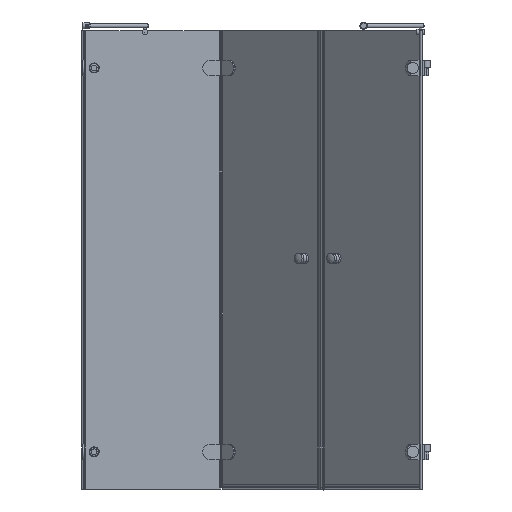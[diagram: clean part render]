
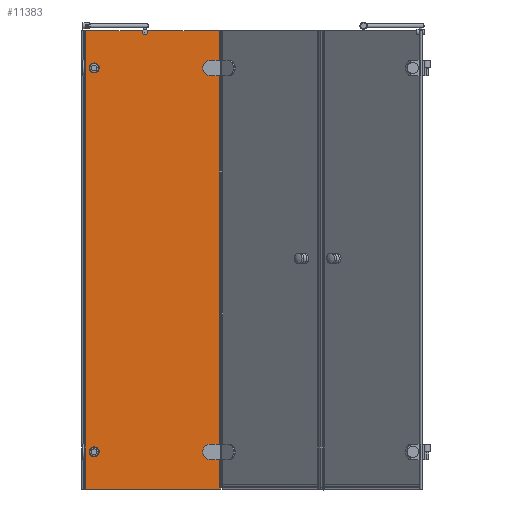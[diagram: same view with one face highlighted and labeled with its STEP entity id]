
A CAD part, left-side view. The second image highlights one B-rep face of the part: STEP entity #11383.
In plain terms, the highlighted planar face has unit normal (-1, 0, 0).
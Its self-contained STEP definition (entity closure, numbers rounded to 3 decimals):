
#732=LINE($,#17956,#1774);
#736=LINE($,#17964,#1778);
#740=LINE($,#17975,#1782);
#782=LINE($,#18084,#1824);
#786=LINE($,#18092,#1828);
#790=LINE($,#18103,#1832);
#915=LINE($,#18841,#1957);
#922=LINE($,#18869,#1964);
#925=LINE($,#18879,#1967);
#946=LINE($,#18938,#1988);
#949=LINE($,#18944,#1991);
#968=LINE($,#18999,#2010);
#969=LINE($,#19001,#2011);
#971=LINE($,#19004,#2013);
#975=LINE($,#19013,#2017);
#996=LINE($,#19070,#2038);
#1774=VECTOR($,#14465,52.);
#1778=VECTOR($,#14471,23.);
#1782=VECTOR($,#14483,23.);
#1824=VECTOR($,#14589,52.);
#1828=VECTOR($,#14595,23.);
#1832=VECTOR($,#14607,23.);
#1957=VECTOR($,#15016,251.365);
#1964=VECTOR($,#15037,2.443);
#1967=VECTOR($,#15046,472.699);
#1988=VECTOR($,#15101,1595.);
#1991=VECTOR($,#15106,1595.);
#2010=VECTOR($,#15171,1595.);
#2011=VECTOR($,#15174,2.257);
#2013=VECTOR($,#15178,5.);
#2017=VECTOR($,#15186,1600.);
#2038=VECTOR($,#15255,198.774);
#2504=FACE_BOUND($,#3737,.T.);
#2505=FACE_BOUND($,#3738,.T.);
#2506=FACE_BOUND($,#3739,.T.);
#2507=FACE_BOUND($,#3740,.T.);
#2508=FACE_BOUND($,#3741,.T.);
#3737=EDGE_LOOP($,(#9459,#9460,#9461,#9462));
#3738=EDGE_LOOP($,(#9463,#9464,#9465,#9466));
#3739=EDGE_LOOP($,(#9467));
#3740=EDGE_LOOP($,(#9468));
#3741=EDGE_LOOP($,(#9469,#9470,#9471,#9472,#9473,#9474,#9475,#9476,#9477,
#9478,#9479));
#4071=CIRCLE($,#12116,26.);
#4083=CIRCLE($,#12153,26.);
#4111=CIRCLE($,#12216,15.);
#4136=CIRCLE($,#12270,15.);
#4139=CIRCLE($,#12274,10.);
#4901=VERTEX_POINT($,#17954);
#4902=VERTEX_POINT($,#17955);
#4905=VERTEX_POINT($,#17963);
#4907=VERTEX_POINT($,#17969);
#4942=VERTEX_POINT($,#18082);
#4943=VERTEX_POINT($,#18083);
#4946=VERTEX_POINT($,#18091);
#4948=VERTEX_POINT($,#18097);
#5008=VERTEX_POINT($,#18335);
#5063=VERTEX_POINT($,#18552);
#5070=VERTEX_POINT($,#18603);
#5071=VERTEX_POINT($,#18604);
#5104=VERTEX_POINT($,#18840);
#5117=VERTEX_POINT($,#18867);
#5118=VERTEX_POINT($,#18868);
#5121=VERTEX_POINT($,#18877);
#5122=VERTEX_POINT($,#18878);
#5143=VERTEX_POINT($,#18937);
#5145=VERTEX_POINT($,#18943);
#5158=VERTEX_POINT($,#18997);
#5161=VERTEX_POINT($,#19012);
#6241=EDGE_CURVE($,#4901,#4902,#732,.T.);
#6245=EDGE_CURVE($,#4902,#4905,#736,.T.);
#6248=EDGE_CURVE($,#4905,#4907,#4071,.T.);
#6251=EDGE_CURVE($,#4907,#4901,#740,.T.);
#6303=EDGE_CURVE($,#4942,#4943,#782,.T.);
#6307=EDGE_CURVE($,#4943,#4946,#786,.T.);
#6310=EDGE_CURVE($,#4946,#4948,#4083,.T.);
#6313=EDGE_CURVE($,#4948,#4942,#790,.T.);
#6395=EDGE_CURVE($,#5008,#5008,#4111,.T.);
#6470=EDGE_CURVE($,#5063,#5063,#4136,.T.);
#6477=EDGE_CURVE($,#5070,#5071,#4139,.T.);
#6518=EDGE_CURVE($,#5104,#5070,#915,.T.);
#6532=EDGE_CURVE($,#5117,#5118,#922,.T.);
#6537=EDGE_CURVE($,#5121,#5122,#925,.T.);
#6568=EDGE_CURVE($,#5143,#5104,#946,.T.);
#6571=EDGE_CURVE($,#5118,#5145,#949,.T.);
#6599=EDGE_CURVE($,#5117,#5158,#968,.T.);
#6600=EDGE_CURVE($,#5145,#5143,#969,.T.);
#6602=EDGE_CURVE($,#5158,#5121,#971,.T.);
#6606=EDGE_CURVE($,#5161,#5122,#975,.T.);
#6636=EDGE_CURVE($,#5071,#5161,#996,.T.);
#9459=ORIENTED_EDGE($,*,*,#6241,.T.);
#9460=ORIENTED_EDGE($,*,*,#6245,.T.);
#9461=ORIENTED_EDGE($,*,*,#6248,.T.);
#9462=ORIENTED_EDGE($,*,*,#6251,.T.);
#9463=ORIENTED_EDGE($,*,*,#6303,.T.);
#9464=ORIENTED_EDGE($,*,*,#6307,.T.);
#9465=ORIENTED_EDGE($,*,*,#6310,.T.);
#9466=ORIENTED_EDGE($,*,*,#6313,.T.);
#9467=ORIENTED_EDGE($,*,*,#6395,.T.);
#9468=ORIENTED_EDGE($,*,*,#6470,.T.);
#9469=ORIENTED_EDGE($,*,*,#6477,.T.);
#9470=ORIENTED_EDGE($,*,*,#6636,.T.);
#9471=ORIENTED_EDGE($,*,*,#6606,.T.);
#9472=ORIENTED_EDGE($,*,*,#6537,.F.);
#9473=ORIENTED_EDGE($,*,*,#6602,.F.);
#9474=ORIENTED_EDGE($,*,*,#6599,.F.);
#9475=ORIENTED_EDGE($,*,*,#6532,.T.);
#9476=ORIENTED_EDGE($,*,*,#6571,.T.);
#9477=ORIENTED_EDGE($,*,*,#6600,.T.);
#9478=ORIENTED_EDGE($,*,*,#6568,.T.);
#9479=ORIENTED_EDGE($,*,*,#6518,.T.);
#10194=PLANE($,#12376);
#11383=ADVANCED_FACE($,(#2504,#2505,#2506,#2507,#2508),#10194,.T.);
#12116=AXIS2_PLACEMENT_3D($,#17970,#14476,#14477);
#12153=AXIS2_PLACEMENT_3D($,#18098,#14600,#14601);
#12216=AXIS2_PLACEMENT_3D($,#18336,#14781,#14782);
#12270=AXIS2_PLACEMENT_3D($,#18553,#14937,#14938);
#12274=AXIS2_PLACEMENT_3D($,#18605,#14945,#14946);
#12376=AXIS2_PLACEMENT_3D($,#19069,#15253,#15254);
#14465=DIRECTION($,(0.,0.,-1.));
#14471=DIRECTION($,(0.,1.,0.));
#14476=DIRECTION('center_axis',(1.,0.,0.));
#14477=DIRECTION('ref_axis',(0.,0.,
1.));
#14483=DIRECTION($,(0.,-1.,0.));
#14589=DIRECTION($,(0.,0.,-1.));
#14595=DIRECTION($,(0.,1.,0.));
#14600=DIRECTION('center_axis',(1.,0.,0.));
#14601=DIRECTION('ref_axis',(0.,0.,
1.));
#14607=DIRECTION($,(0.,-1.,0.));
#14781=DIRECTION('center_axis',(1.,0.,0.));
#14782=DIRECTION('ref_axis',(0.,-1.,0.));
#14937=DIRECTION('center_axis',(1.,0.,0.));
#14938=DIRECTION('ref_axis',(0.,-1.,0.));
#14945=DIRECTION('center_axis',(1.,0.,0.));
#14946=DIRECTION('ref_axis',(0.,0.597,0.802));
#15016=DIRECTION($,(0.,1.,0.));
#15037=DIRECTION($,(0.,1.,0.));
#15046=DIRECTION($,(0.,1.,0.));
#15101=DIRECTION($,(0.,0.,1.));
#15106=DIRECTION($,(0.,0.,-1.));
#15171=DIRECTION($,(0.,0.,-1.));
#15174=DIRECTION($,(0.,1.,0.));
#15178=DIRECTION($,(0.,0.,-1.));
#15186=DIRECTION($,(0.,0.,-1.));
#15253=DIRECTION('center_axis',(-1.,0.,0.));
#15254=DIRECTION('ref_axis',(0.,1.,0.));
#15255=DIRECTION($,(0.,1.,0.));
#17954=CARTESIAN_POINT('',(1461.411,474.557,1481.944));
#17955=CARTESIAN_POINT('',(1461.411,474.557,1429.944));
#17956=CARTESIAN_POINT($,(1461.411,474.557,1507.944));
#17963=CARTESIAN_POINT('',(1461.411,497.557,1429.944));
#17964=CARTESIAN_POINT($,(1461.411,479.557,1429.944));
#17969=CARTESIAN_POINT('',(1461.411,497.557,1481.944));
#17970=CARTESIAN_POINT('Origin',(1461.411,497.557,1455.944));
#17975=CARTESIAN_POINT($,(1461.411,468.057,1481.944));
#18082=CARTESIAN_POINT('',(1461.411,474.557,141.944));
#18083=CARTESIAN_POINT('',(1461.411,474.557,89.944));
#18084=CARTESIAN_POINT($,(1461.411,474.557,837.944));
#18091=CARTESIAN_POINT('',(1461.411,497.557,89.944));
#18092=CARTESIAN_POINT($,(1461.411,479.557,89.944));
#18097=CARTESIAN_POINT('',(1461.411,497.557,141.944));
#18098=CARTESIAN_POINT('Origin',(1461.411,497.557,115.944));
#18103=CARTESIAN_POINT($,(1461.411,468.057,141.944));
#18335=CARTESIAN_POINT('',(1461.411,918.956,1455.944));
#18336=CARTESIAN_POINT('Origin',(1461.411,903.956,1455.944));
#18552=CARTESIAN_POINT('',(1461.411,918.956,115.944));
#18553=CARTESIAN_POINT('Origin',(1461.411,903.956,115.944));
#18603=CARTESIAN_POINT('',(1461.411,717.622,1585.944));
#18604=CARTESIAN_POINT('',(1461.411,735.482,1585.944));
#18605=CARTESIAN_POINT('Origin',(1461.411,726.552,1581.444));
#18840=CARTESIAN_POINT('',(1461.411,466.257,1585.944));
#18841=CARTESIAN_POINT($,(1461.411,461.557,1585.944));
#18867=CARTESIAN_POINT('',(1461.411,461.557,1585.944));
#18868=CARTESIAN_POINT('',(1461.411,464.,1585.944));
#18869=CARTESIAN_POINT($,(1461.411,461.557,1585.944));
#18877=CARTESIAN_POINT('',(1461.411,461.557,-14.056));
#18878=CARTESIAN_POINT('',(1461.411,934.256,-14.056));
#18879=CARTESIAN_POINT($,(1461.411,461.557,-14.056));
#18937=CARTESIAN_POINT('',(1461.411,466.257,-9.056));
#18938=CARTESIAN_POINT($,(1461.411,466.257,788.444));
#18943=CARTESIAN_POINT('',(1461.411,464.,-9.056));
#18944=CARTESIAN_POINT($,(1461.411,464.,788.444));
#18997=CARTESIAN_POINT('',(1461.411,461.557,-9.056));
#18999=CARTESIAN_POINT($,(1461.411,461.557,1585.944));
#19001=CARTESIAN_POINT($,(1461.411,462.16,-9.056));
#19004=CARTESIAN_POINT($,(1461.411,461.557,1585.944));
#19012=CARTESIAN_POINT('',(1461.411,934.256,1585.944));
#19013=CARTESIAN_POINT($,(1461.411,934.256,785.944));
#19069=CARTESIAN_POINT('Origin',(1461.411,461.557,1585.944));
#19070=CARTESIAN_POINT($,(1461.411,461.557,1585.944));
